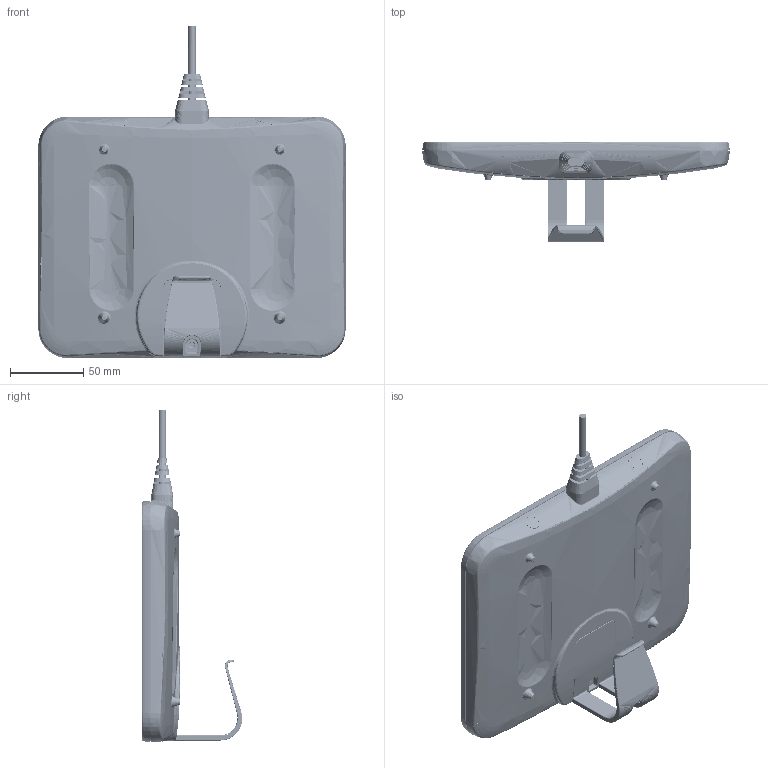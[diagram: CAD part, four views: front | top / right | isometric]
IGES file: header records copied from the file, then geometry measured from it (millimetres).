
Start section: SolidWorks IGES file using NURBS representation for surfaces
Global section: file name: C:\Users\lynn\Desktop\CP2\CP2.IGS; native system: SolidWorks 2015; preprocessor: SolidWorks 2015; author: lynn; date: 200114.085643; units: millimetre
Bounding box: 210 x 68.73 x 226.9 mm (x, y, z)
Surface area: 217533.1 mm2 (no closed solid volume)
Topology: 0 solids, 0 shells, 2119 faces, 26721 edges, 26706 vertices
Faces by surface type: bspline 2119
